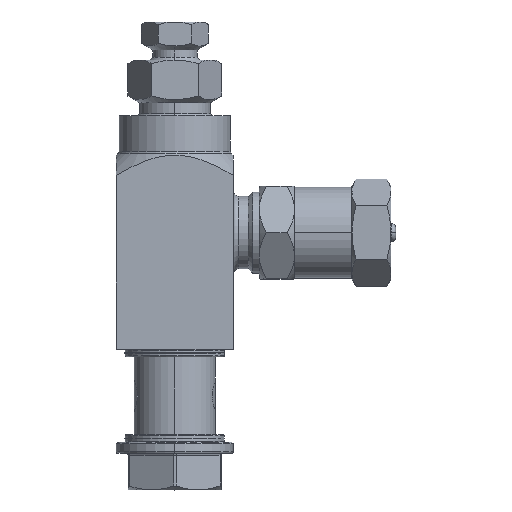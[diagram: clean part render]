
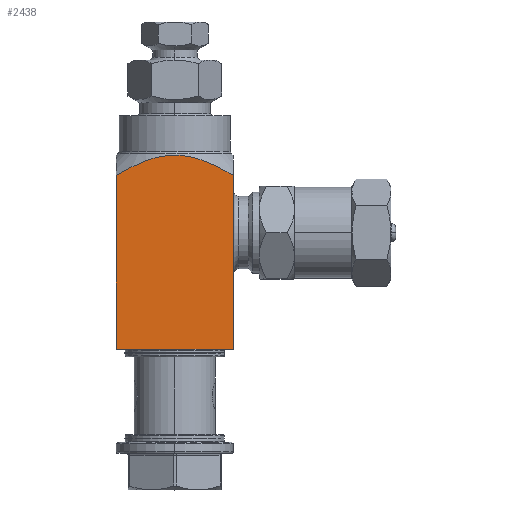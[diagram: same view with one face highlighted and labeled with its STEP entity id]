
A CAD part, top view. The second image highlights one B-rep face of the part: STEP entity #2438.
In plain terms, the highlighted planar face has unit normal (0, 0, 1).
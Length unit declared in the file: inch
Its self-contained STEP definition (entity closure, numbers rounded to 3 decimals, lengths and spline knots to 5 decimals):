
#2078=DIRECTION('',(1.,0.,0.));
#2079=VECTOR('',#2078,0.63);
#2080=CARTESIAN_POINT('',(-0.315,0.25,0.315));
#2081=LINE('',#2080,#2079);
#2140=DIRECTION('',(0.,1.,0.));
#2141=VECTOR('',#2140,0.93793);
#2142=CARTESIAN_POINT('',(-0.315,0.25,0.315));
#2143=LINE('',#2142,#2141);
#2144=CARTESIAN_POINT('',(-0.315,1.18793,0.315));
#2145=CARTESIAN_POINT('',(-0.29541,1.19955,0.315));
#2146=CARTESIAN_POINT('',(-0.25798,1.22067,0.315));
#2147=CARTESIAN_POINT('',(-0.2074,1.24586,0.315));
#2148=CARTESIAN_POINT('',(-0.16162,1.26525,0.315));
#2149=CARTESIAN_POINT('',(-0.11935,1.27969,0.315));
#2150=CARTESIAN_POINT('',(-0.07892,1.28989,0.315));
#2151=CARTESIAN_POINT('',(-0.03927,1.29604,0.315));
#2152=CARTESIAN_POINT('',(0.0001,1.2981,0.315));
#2153=CARTESIAN_POINT('',(0.03947,1.29602,0.315));
#2154=CARTESIAN_POINT('',(0.07909,1.28986,0.315));
#2155=CARTESIAN_POINT('',(0.11952,1.27964,0.315));
#2156=CARTESIAN_POINT('',(0.16173,1.26521,0.315));
#2157=CARTESIAN_POINT('',(0.20742,1.24586,0.315));
#2158=CARTESIAN_POINT('',(0.25797,1.22067,0.315));
#2159=CARTESIAN_POINT('',(0.2954,1.19956,0.315));
#2160=CARTESIAN_POINT('',(0.315,1.18793,0.315));
#2162=DIRECTION('',(0.,1.,0.));
#2163=VECTOR('',#2162,0.93793);
#2164=CARTESIAN_POINT('',(0.315,0.25,0.315));
#2165=LINE('',#2164,#2163);
#2319=CARTESIAN_POINT('',(-0.315,0.25,0.315));
#2321=VERTEX_POINT('',#2319);
#2324=CARTESIAN_POINT('',(-0.315,1.18793,0.315));
#2325=VERTEX_POINT('',#2324);
#2332=VERTEX_POINT('',#2160);
#2342=CARTESIAN_POINT('',(0.315,0.25,0.315));
#2344=VERTEX_POINT('',#2342);
#2425=CARTESIAN_POINT('',(-0.315,0.25,0.315));
#2426=DIRECTION('',(0.,0.,1.));
#2427=DIRECTION('',(1.,0.,0.));
#2428=AXIS2_PLACEMENT_3D('',#2425,#2426,#2427);
#2429=PLANE('',#2428);
#2430=ORIENTED_EDGE('',*,*,#2419,.T.);
#2432=ORIENTED_EDGE('',*,*,#2431,.T.);
#2434=ORIENTED_EDGE('',*,*,#2433,.F.);
#2435=ORIENTED_EDGE('',*,*,#2377,.F.);
#2436=EDGE_LOOP('',(#2430,#2432,#2434,#2435));
#2437=FACE_OUTER_BOUND('',#2436,.F.);
#2438=ADVANCED_FACE('',(#2437),#2429,.T.);
#2161=B_SPLINE_CURVE_WITH_KNOTS('',3,(#2144,#2145,#2146,#2147,#2148,#2149,#2150,
#2151,#2152,#2153,#2154,#2155,#2156,#2157,#2158,#2159,#2160),.UNSPECIFIED.,.F.,
.F.,(4,1,1,1,1,1,1,1,1,1,1,1,1,1,4),(0.,0.07143,0.14286,
0.21429,0.28571,0.35714,0.42857,0.5,
0.57143,0.64286,0.71429,0.78571,
0.85714,0.92857,1.),.UNSPECIFIED.);
#2377=EDGE_CURVE('',#2321,#2344,#2081,.T.);
#2419=EDGE_CURVE('',#2321,#2325,#2143,.T.);
#2431=EDGE_CURVE('',#2325,#2332,#2161,.T.);
#2433=EDGE_CURVE('',#2344,#2332,#2165,.T.);
